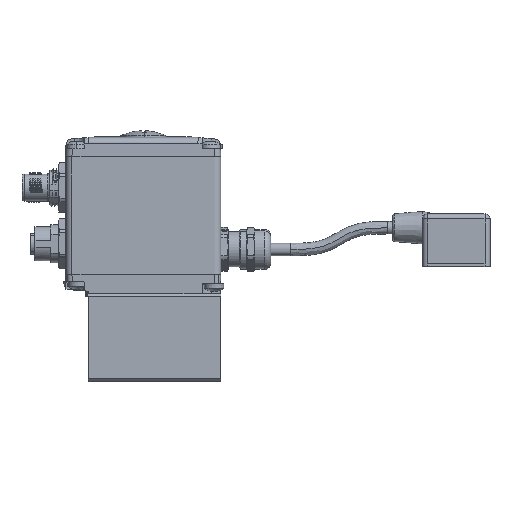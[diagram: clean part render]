
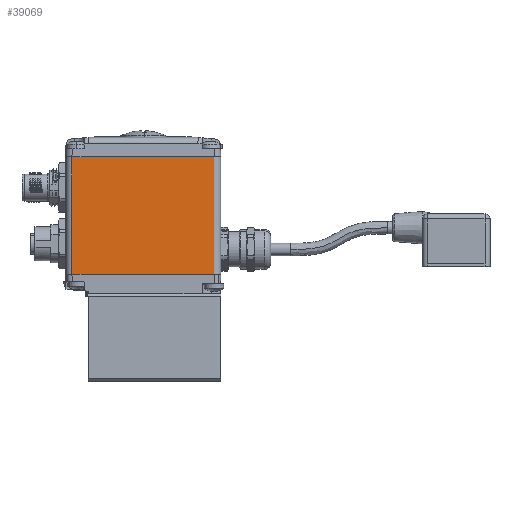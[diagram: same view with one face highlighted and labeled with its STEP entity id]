
A CAD part, top view. The second image highlights one B-rep face of the part: STEP entity #39069.
In plain terms, the highlighted planar face has unit normal (0, 0, 1).
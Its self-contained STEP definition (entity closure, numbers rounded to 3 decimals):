
#7453 = DIRECTION ( 'NONE',  ( 0., -1., 0. ) ) ;
#7456 = CARTESIAN_POINT ( 'NONE',  ( -59.5, 72.3, 17.65 ) ) ;
#7465 = CARTESIAN_POINT ( 'NONE',  ( -59.5, 25.3, 17.65 ) ) ;
#7466 = DIRECTION ( 'NONE',  ( -1., 0., 0. ) ) ;
#7476 = CARTESIAN_POINT ( 'NONE',  ( -59.5, 72.3, 17.65 ) ) ;
#7477 = DIRECTION ( 'NONE',  ( -1., 0., 0. ) ) ;
#7792 = LINE ( 'NONE', #7456, #7796 ) ;
#7796 = VECTOR ( 'NONE', #7453, 1000. ) ;
#7803 = LINE ( 'NONE', #7465, #7805 ) ;
#7804 = LINE ( 'NONE', #7476, #7807 ) ;
#7805 = VECTOR ( 'NONE', #7466, 1000. ) ;
#7807 = VECTOR ( 'NONE', #7477, 1000. ) ;
#23060 = PLANE ( 'NONE',  #23802 ) ;
#23068 = CARTESIAN_POINT ( 'NONE',  ( -59.5, 72.3, 17.65 ) ) ;
#23069 = DIRECTION ( 'NONE',  ( 0., 0., -1. ) ) ;
#23070 = DIRECTION ( 'NONE',  ( 1., 0., 0. ) ) ;
#23588 = FACE_OUTER_BOUND ( 'NONE', #53567, .T. ) ;
#23802 = AXIS2_PLACEMENT_3D ( 'NONE', #23068, #23069, #23070 ) ;
#39069 = ADVANCED_FACE ( 'NONE', ( #23588 ), #23060, .F. ) ;
#53567 = EDGE_LOOP ( 'NONE', ( #71217, #71219, #71221, #71223 ) ) ;
#59724 = EDGE_CURVE ( 'NONE', #68236, #68245, #77699, .T. ) ;
#68236 = VERTEX_POINT ( 'NONE', #85259 ) ;
#68245 = VERTEX_POINT ( 'NONE', #85262 ) ;
#68345 = VERTEX_POINT ( 'NONE', #85297 ) ;
#68353 = VERTEX_POINT ( 'NONE', #85300 ) ;
#71217 = ORIENTED_EDGE ( 'NONE', *, *, #80347, .F. ) ;
#71219 = ORIENTED_EDGE ( 'NONE', *, *, #59724, .F. ) ;
#71221 = ORIENTED_EDGE ( 'NONE', *, *, #80348, .T. ) ;
#71223 = ORIENTED_EDGE ( 'NONE', *, *, #80341, .T. ) ;
#77699 = LINE ( 'NONE', #83715, #77701 ) ;
#77701 = VECTOR ( 'NONE', #83718, 1000. ) ;
#80341 = EDGE_CURVE ( 'NONE', #68353, #68345, #7792, .T. ) ;
#80347 = EDGE_CURVE ( 'NONE', #68245, #68345, #7803, .T. ) ;
#80348 = EDGE_CURVE ( 'NONE', #68236, #68353, #7804, .T. ) ;
#83715 = CARTESIAN_POINT ( 'NONE',  ( -2.5, 72.3, 17.65 ) ) ;
#83718 = DIRECTION ( 'NONE',  ( 0., -1., 0. ) ) ;
#85259 = CARTESIAN_POINT ( 'NONE',  ( -2.5, 72.3, 17.65 ) ) ;
#85262 = CARTESIAN_POINT ( 'NONE',  ( -2.5, 25.3, 17.65 ) ) ;
#85297 = CARTESIAN_POINT ( 'NONE',  ( -59.5, 25.3, 17.65 ) ) ;
#85300 = CARTESIAN_POINT ( 'NONE',  ( -59.5, 72.3, 17.65 ) ) ;
